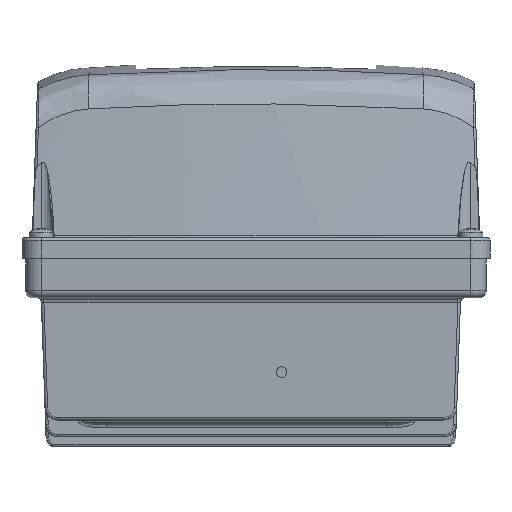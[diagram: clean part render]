
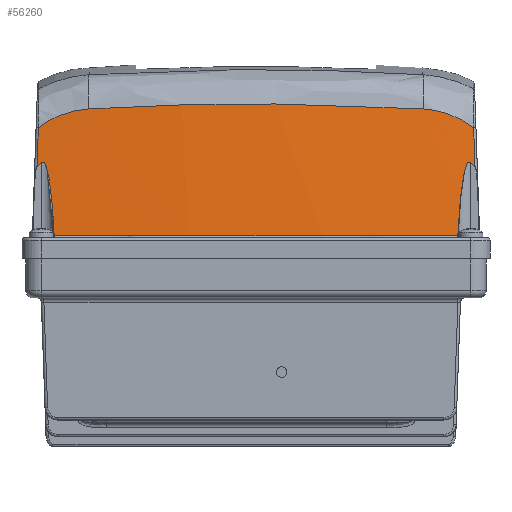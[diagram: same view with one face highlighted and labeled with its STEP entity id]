
A CAD part, left-side view. The second image highlights one B-rep face of the part: STEP entity #56260.
In plain terms, the highlighted conical face has half-angle 6 degrees and reference radius 850 mm.
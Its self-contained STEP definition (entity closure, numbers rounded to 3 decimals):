
#107=CONICAL_SURFACE('',#59485,850.,0.105);
#999=B_SPLINE_CURVE_WITH_KNOTS('',3,(#87707,#87708,#87709,#87710),
 .UNSPECIFIED.,.F.,.F.,(4,4),(0.,1.),.UNSPECIFIED.);
#1000=B_SPLINE_CURVE_WITH_KNOTS('',3,(#87775,#87776,#87777,#87778,#87779,
#87780,#87781,#87782,#87783,#87784,#87785,#87786,#87787,#87788,#87789,#87790,
#87791,#87792,#87793),.UNSPECIFIED.,.F.,.F.,(4,1,1,1,1,1,1,1,1,1,1,1,1,
1,1,1,4),(0.,0.004,0.008,
0.011,0.015,0.019,0.021,
0.023,0.025,0.026,0.027,
0.028,0.028,0.029,0.029,
0.03,0.03),.UNSPECIFIED.);
#1001=B_SPLINE_CURVE_WITH_KNOTS('',3,(#87795,#87796,#87797,#87798),
 .UNSPECIFIED.,.F.,.F.,(4,4),(0.,1.),.UNSPECIFIED.);
#1002=B_SPLINE_CURVE_WITH_KNOTS('',3,(#87800,#87801,#87802,#87803,#87804,
#87805,#87806,#87807,#87808),.UNSPECIFIED.,.F.,.F.,(4,1,1,1,1,1,4),(0.,
0.25,0.375,0.5,0.625,0.75,1.),.UNSPECIFIED.);
#1003=B_SPLINE_CURVE_WITH_KNOTS('',3,(#87810,#87811,#87812,#87813),
 .UNSPECIFIED.,.F.,.F.,(4,4),(0.,1.),.UNSPECIFIED.);
#1004=B_SPLINE_CURVE_WITH_KNOTS('',3,(#87815,#87816,#87817,#87818,#87819,
#87820,#87821),.UNSPECIFIED.,.F.,.F.,(4,1,1,1,4),(0.,0.25,0.5,0.75,1.),
 .UNSPECIFIED.);
#1005=B_SPLINE_CURVE_WITH_KNOTS('',3,(#87823,#87824,#87825,#87826),
 .UNSPECIFIED.,.F.,.F.,(4,4),(0.,1.),.UNSPECIFIED.);
#1006=B_SPLINE_CURVE_WITH_KNOTS('',3,(#87827,#87828,#87829,#87830),
 .UNSPECIFIED.,.F.,.F.,(4,4),(0.,1.),.UNSPECIFIED.);
#1007=B_SPLINE_CURVE_WITH_KNOTS('',3,(#87832,#87833,#87834,#87835,#87836,
#87837,#87838,#87839,#87840,#87841,#87842,#87843,#87844,#87845,#87846,#87847,
#87848,#87849,#87850),.UNSPECIFIED.,.F.,.F.,(4,1,1,1,1,1,1,1,1,1,1,1,1,
1,1,1,4),(0.,0.,0.001,0.001,
0.002,0.003,0.004,0.005,
0.006,0.008,0.01,0.012,
0.015,0.019,0.023,0.027,
0.031),.UNSPECIFIED.);
#2455=CIRCLE('',#59449,849.906);
#8344=ORIENTED_EDGE('',*,*,#17623,.T.);
#8345=ORIENTED_EDGE('',*,*,#17622,.T.);
#8346=ORIENTED_EDGE('',*,*,#17624,.T.);
#8347=ORIENTED_EDGE('',*,*,#17625,.T.);
#8348=ORIENTED_EDGE('',*,*,#17626,.T.);
#8349=ORIENTED_EDGE('',*,*,#17627,.T.);
#8350=ORIENTED_EDGE('',*,*,#17628,.T.);
#8351=ORIENTED_EDGE('',*,*,#17629,.T.);
#8352=ORIENTED_EDGE('',*,*,#17630,.T.);
#8353=ORIENTED_EDGE('',*,*,#17569,.F.);
#17569=EDGE_CURVE('',#22436,#22437,#2455,.T.);
#17622=EDGE_CURVE('',#22463,#22433,#999,.F.);
#17623=EDGE_CURVE('',#22436,#22463,#1000,.T.);
#17624=EDGE_CURVE('',#22433,#22464,#1001,.F.);
#17625=EDGE_CURVE('',#22464,#22465,#1002,.T.);
#17626=EDGE_CURVE('',#22465,#22466,#1003,.T.);
#17627=EDGE_CURVE('',#22466,#22467,#1004,.T.);
#17628=EDGE_CURVE('',#22467,#22442,#1005,.F.);
#17629=EDGE_CURVE('',#22442,#22468,#1006,.F.);
#17630=EDGE_CURVE('',#22468,#22437,#1007,.T.);
#22433=VERTEX_POINT('',#87128);
#22436=VERTEX_POINT('',#87205);
#22437=VERTEX_POINT('',#87219);
#22442=VERTEX_POINT('',#87312);
#22463=VERTEX_POINT('',#87706);
#22464=VERTEX_POINT('',#87799);
#22465=VERTEX_POINT('',#87809);
#22466=VERTEX_POINT('',#87814);
#22467=VERTEX_POINT('',#87822);
#22468=VERTEX_POINT('',#87831);
#32264=EDGE_LOOP('',(#8344,#8345,#8346,#8347,#8348,#8349,#8350,#8351,#8352,
#8353));
#35082=FACE_BOUND('',#32264,.T.);
#56260=ADVANCED_FACE('',(#35082),#107,.T.);
#59449=AXIS2_PLACEMENT_3D('',#87218,#65683,#65684);
#59485=AXIS2_PLACEMENT_3D('',#87794,#65772,#65773);
#65683=DIRECTION('',(0.,0.,-1.));
#65684=DIRECTION('',(-1.,0.,0.));
#65772=DIRECTION('',(0.,0.,-1.));
#65773=DIRECTION('',(1.,0.,0.));
#87128=CARTESIAN_POINT('',(-92.749,-85.621,47.352));
#87205=CARTESIAN_POINT('',(-96.249,-78.929,20.395));
#87218=CARTESIAN_POINT('',(749.984,0.,20.395));
#87219=CARTESIAN_POINT('',(-96.249,78.929,20.395));
#87312=CARTESIAN_POINT('',(-92.749,85.621,47.352));
#87706=CARTESIAN_POINT('',(-92.748,-84.02,48.897));
#87707=CARTESIAN_POINT('',(-92.748,-85.631,47.363));
#87708=CARTESIAN_POINT('',(-92.748,-85.093,47.879));
#87709=CARTESIAN_POINT('',(-92.748,-84.556,48.391));
#87710=CARTESIAN_POINT('',(-92.748,-84.02,48.897));
#87775=CARTESIAN_POINT('',(-96.249,-78.929,20.395));
#87776=CARTESIAN_POINT('',(-96.111,-78.982,21.653));
#87777=CARTESIAN_POINT('',(-95.834,-79.101,24.169));
#87778=CARTESIAN_POINT('',(-95.416,-79.324,27.938));
#87779=CARTESIAN_POINT('',(-94.992,-79.601,31.704));
#87780=CARTESIAN_POINT('',(-94.563,-79.945,35.463));
#87781=CARTESIAN_POINT('',(-94.198,-80.305,38.588));
#87782=CARTESIAN_POINT('',(-93.902,-80.659,41.079));
#87783=CARTESIAN_POINT('',(-93.676,-80.969,42.94));
#87784=CARTESIAN_POINT('',(-93.483,-81.277,44.482));
#87785=CARTESIAN_POINT('',(-93.326,-81.573,45.703));
#87786=CARTESIAN_POINT('',(-93.205,-81.827,46.611));
#87787=CARTESIAN_POINT('',(-93.081,-82.132,47.503));
#87788=CARTESIAN_POINT('',(-92.974,-82.449,48.222));
#87789=CARTESIAN_POINT('',(-92.885,-82.794,48.747));
#87790=CARTESIAN_POINT('',(-92.816,-83.126,49.094));
#87791=CARTESIAN_POINT('',(-92.755,-83.624,49.204));
#87792=CARTESIAN_POINT('',(-92.748,-83.903,49.007));
#87793=CARTESIAN_POINT('',(-92.748,-84.02,48.897));
#87794=CARTESIAN_POINT('',(749.984,0.,19.5));
#87795=CARTESIAN_POINT('',(-91.2,-85.101,62.525));
#87796=CARTESIAN_POINT('',(-91.716,-85.277,57.468));
#87797=CARTESIAN_POINT('',(-92.233,-85.454,52.41));
#87798=CARTESIAN_POINT('',(-92.749,-85.631,47.352));
#87799=CARTESIAN_POINT('',(-91.2,-85.101,62.525));
#87800=CARTESIAN_POINT('',(-91.2,-85.101,62.525));
#87801=CARTESIAN_POINT('',(-91.227,-83.683,63.625));
#87802=CARTESIAN_POINT('',(-91.292,-81.451,65.1));
#87803=CARTESIAN_POINT('',(-91.421,-78.28,66.713));
#87804=CARTESIAN_POINT('',(-91.54,-75.773,67.757));
#87805=CARTESIAN_POINT('',(-91.675,-73.26,68.59));
#87806=CARTESIAN_POINT('',(-91.88,-69.791,69.459));
#87807=CARTESIAN_POINT('',(-92.056,-67.144,69.816));
#87808=CARTESIAN_POINT('',(-92.184,-65.361,69.922));
#87809=CARTESIAN_POINT('',(-92.184,-65.361,69.922));
#87810=CARTESIAN_POINT('',(-92.184,-65.361,69.922));
#87811=CARTESIAN_POINT('',(-95.287,-21.853,72.514));
#87812=CARTESIAN_POINT('',(-95.287,21.853,72.514));
#87813=CARTESIAN_POINT('',(-92.184,65.361,69.922));
#87814=CARTESIAN_POINT('',(-92.184,65.361,69.922));
#87815=CARTESIAN_POINT('',(-92.184,65.361,69.922));
#87816=CARTESIAN_POINT('',(-92.056,67.143,69.816));
#87817=CARTESIAN_POINT('',(-91.821,70.684,69.337));
#87818=CARTESIAN_POINT('',(-91.531,75.808,67.852));
#87819=CARTESIAN_POINT('',(-91.313,80.717,65.585));
#87820=CARTESIAN_POINT('',(-91.227,83.687,63.621));
#87821=CARTESIAN_POINT('',(-91.2,85.101,62.525));
#87822=CARTESIAN_POINT('',(-91.2,85.101,62.525));
#87823=CARTESIAN_POINT('',(-92.749,85.631,47.353));
#87824=CARTESIAN_POINT('',(-92.233,85.454,52.41));
#87825=CARTESIAN_POINT('',(-91.716,85.277,57.468));
#87826=CARTESIAN_POINT('',(-91.2,85.101,62.525));
#87827=CARTESIAN_POINT('',(-92.748,84.02,48.897));
#87828=CARTESIAN_POINT('',(-92.748,84.557,48.39));
#87829=CARTESIAN_POINT('',(-92.748,85.093,47.879));
#87830=CARTESIAN_POINT('',(-92.748,85.63,47.363));
#87831=CARTESIAN_POINT('',(-92.748,84.02,48.897));
#87832=CARTESIAN_POINT('',(-92.748,84.02,48.897));
#87833=CARTESIAN_POINT('',(-92.748,83.902,49.008));
#87834=CARTESIAN_POINT('',(-92.755,83.622,49.206));
#87835=CARTESIAN_POINT('',(-92.817,83.118,49.091));
#87836=CARTESIAN_POINT('',(-92.887,82.785,48.736));
#87837=CARTESIAN_POINT('',(-92.976,82.443,48.209));
#87838=CARTESIAN_POINT('',(-93.084,82.124,47.481));
#87839=CARTESIAN_POINT('',(-93.207,81.822,46.593));
#87840=CARTESIAN_POINT('',(-93.328,81.568,45.685));
#87841=CARTESIAN_POINT('',(-93.486,81.272,44.459));
#87842=CARTESIAN_POINT('',(-93.678,80.965,42.918));
#87843=CARTESIAN_POINT('',(-93.904,80.656,41.06));
#87844=CARTESIAN_POINT('',(-94.2,80.303,38.574));
#87845=CARTESIAN_POINT('',(-94.564,79.944,35.454));
#87846=CARTESIAN_POINT('',(-94.993,79.6,31.697));
#87847=CARTESIAN_POINT('',(-95.416,79.324,27.933));
#87848=CARTESIAN_POINT('',(-95.835,79.1,24.166));
#87849=CARTESIAN_POINT('',(-96.111,78.982,21.653));
#87850=CARTESIAN_POINT('',(-96.249,78.929,20.395));
